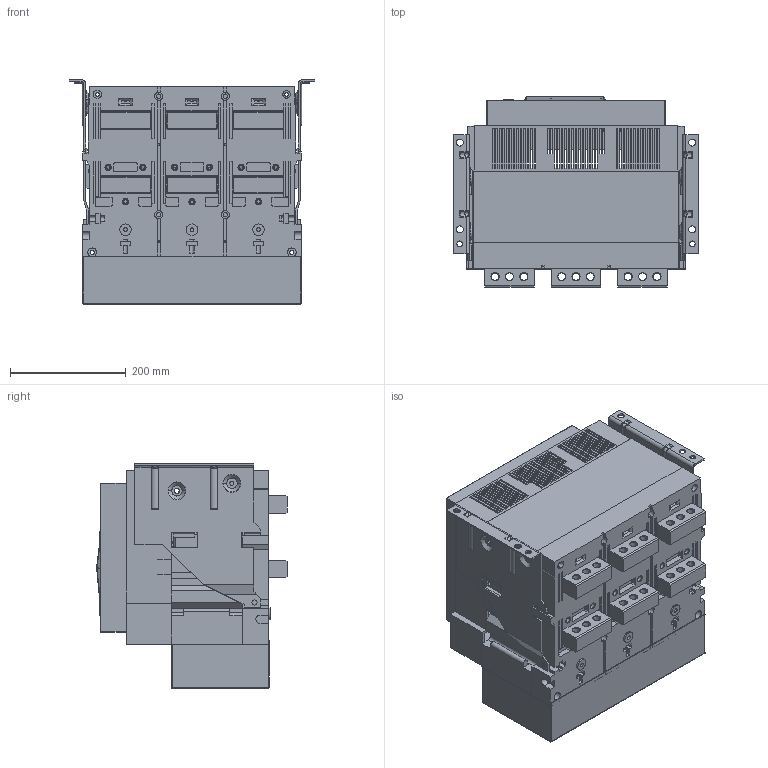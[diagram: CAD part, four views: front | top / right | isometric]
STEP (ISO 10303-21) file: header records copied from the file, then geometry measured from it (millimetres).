
FILE_DESCRIPTION((''),'2;1');
FILE_NAME('NA8G-3200-F-3200-3P_ASM','2020-05-13T08:38:44',('lcc'),(''),'CREO PARAMETRIC BY PTC INC, 2018020','CREO PARAMETRIC BY PTC INC, 2018020','');
FILE_SCHEMA(('CONFIG_CONTROL_DESIGN','SHAPE_APPEARANCE_LAYERS_GROUPS'));
Products named in the file (10): 5ZTD-024-175; NXA32-3P-DIBAN; 8060A0306001; 8060A0306002; 8-060-145-3; 8ZTD-300-315; 8ZTD-580-264; 8-253-034; 8-253-309; NA8G-3200-F-3200-3P_ASM
Assembly tree (14 placements, depth 2):
  NA8G-3200-F-3200-3P_ASM
    5ZTD-024-175
    NXA32-3P-DIBAN
    8060A0306001
    8060A0306002
    8-060-145-3
    8ZTD-300-315
    8ZTD-580-264  x6
    8-253-034
    8-253-309
Bounding box: 424 x 330 x 387.5 mm (x, y, z)
Volume: 7445273.3 mm3; surface area: 2541401.6 mm2
Topology: 14 solids, 18 shells, 3078 faces, 8575 edges, 5626 vertices
Faces by surface type: plane 2139, cylinder 717, cone 100, bspline 63, torus 49, sphere 10
Entity records: 113704 total; most frequent: CARTESIAN_POINT 20430, ORIENTED_EDGE 16163, DIRECTION 14957, EDGE_CURVE 8095, VECTOR 6371, LINE 6371, PRESENTATION_STYLE_ASSIGNMENT 5761, STYLED_ITEM 5760
